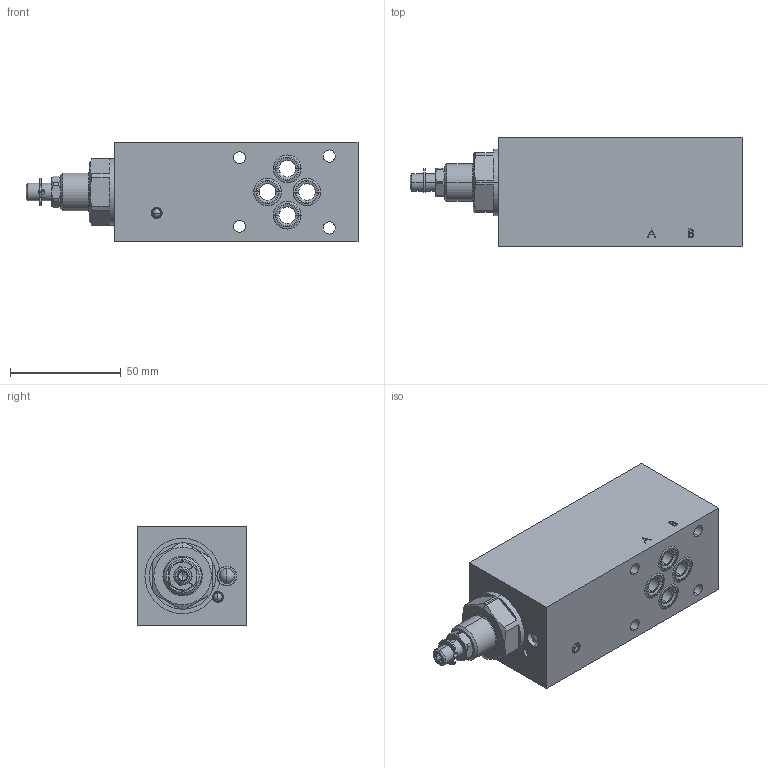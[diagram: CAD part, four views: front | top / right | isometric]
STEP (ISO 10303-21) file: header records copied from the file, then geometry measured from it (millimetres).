
FILE_DESCRIPTION (( 'STEP AP214' ), '1' );
FILE_NAME ('FVSSA06-A.STEP', '2017-03-23T07:14:34', ( '' ), ( '' ), 'SwSTEP 2.0', 'SolidWorks 2016', '' );
FILE_SCHEMA (( 'AUTOMOTIVE_DESIGN' ));
Length unit declared in the file: millimetre
Products named in the file (1): FVSSA06-A
Bounding box: 150.1 x 49.5 x 45 mm (x, y, z)
Volume: 238123.8 mm3; surface area: 40061.7 mm2
Topology: 10 solids, 14 shells, 368 faces, 890 edges, 558 vertices
Faces by surface type: cylinder 129, plane 103, cone 73, bspline 41, sphere 16, torus 6
Entity records: 16013 total; most frequent: CARTESIAN_POINT 3288, DIRECTION 1863, ORIENTED_EDGE 1748, EDGE_CURVE 874, AXIS2_PLACEMENT_3D 763, VERTEX_POINT 558, CIRCLE 435, EDGE_LOOP 418
